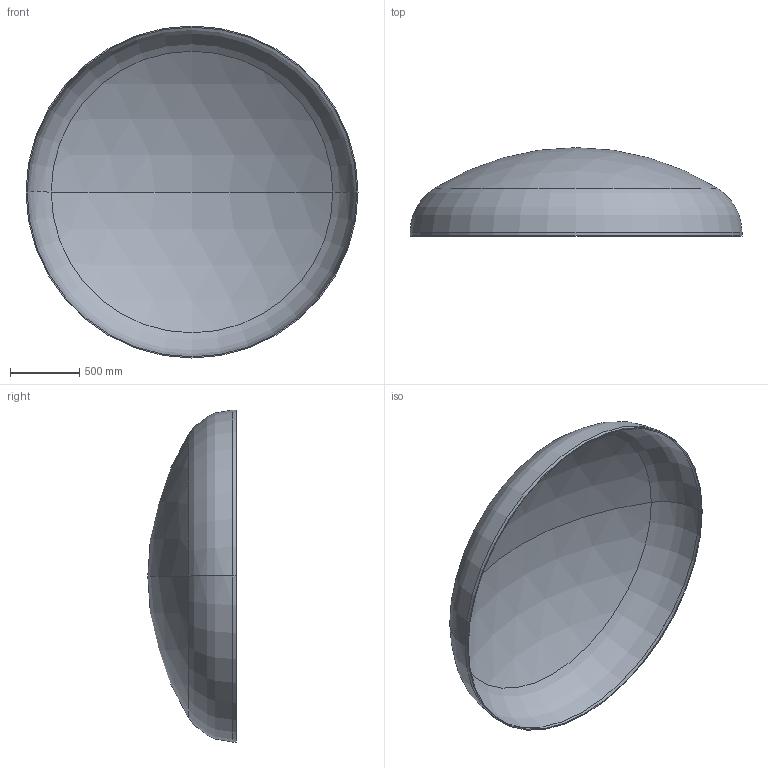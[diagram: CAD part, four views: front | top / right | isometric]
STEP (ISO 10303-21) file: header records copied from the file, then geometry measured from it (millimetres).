
FILE_DESCRIPTION (( 'STEP AP203' ), '1' );
FILE_NAME ('DIN 28013 Korbbogenform_-_Boden DIN 28013 - 2400 x 25 - I - s=8.step', '2016-07-01T15:03:16', ( '' ), ( '' ), 'SwSTEP 2.0', 'SolidWorks 2013', '' );
FILE_SCHEMA (( 'CONFIG_CONTROL_DESIGN' ));
Length unit declared in the file: millimetre
Products named in the file (1): DIN 28013 Korbbogenform_-_Boden DIN 28013 - 2400 x 25 - I - s=8
Bounding box: 2400 x 638.92 x 2400 mm (x, y, z)
Volume: 51420421.2 mm3; surface area: 12915351.7 mm2
Topology: 1 solids, 1 shells, 13 faces, 24 edges, 14 vertices
Faces by surface type: torus 4, cylinder 4, sphere 4, plane 1
Entity records: 407 total; most frequent: DIRECTION 72, CARTESIAN_POINT 52, ORIENTED_EDGE 48, AXIS2_PLACEMENT_3D 34, EDGE_CURVE 24, CIRCLE 20, EDGE_LOOP 14, VERTEX_POINT 14
